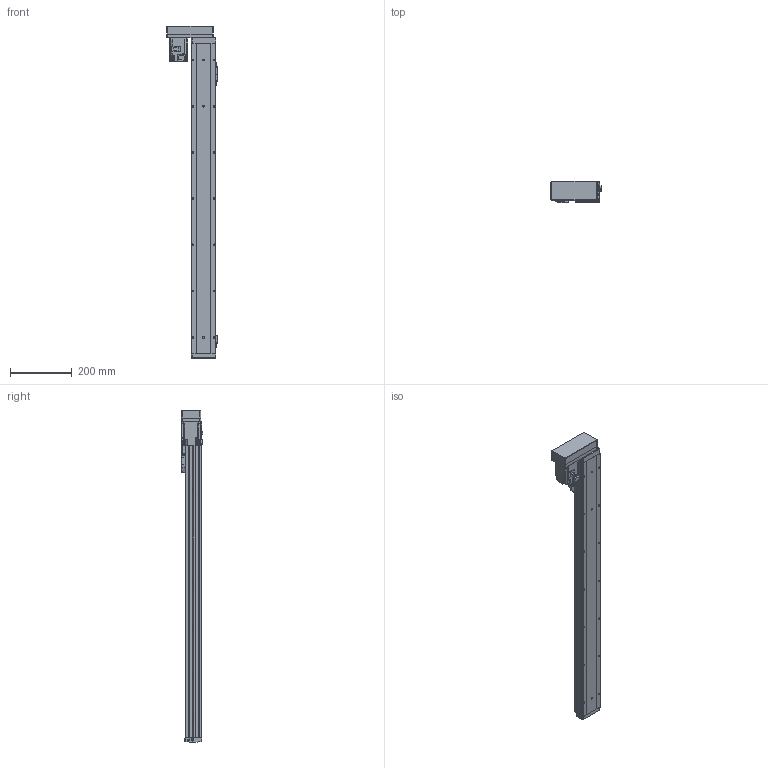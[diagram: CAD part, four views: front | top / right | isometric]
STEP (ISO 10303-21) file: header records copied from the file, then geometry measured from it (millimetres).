
FILE_DESCRIPTION (( 'STEP AP214' ), '1' );
FILE_NAME ('GSH8-850-BR-M20-1.step', '2025-01-07T06:11:27', ( '' ), ( '' ), 'SwSTEP 2.0', 'SolidWorks 2012', '' );
FILE_SCHEMA (( 'AUTOMOTIVE_DESIGN' ));
Length unit declared in the file: millimetre
Products named in the file (5): GSH8-850-BR-M20-1; GSH8-BL-008; GSH8-BL-011-850-M20; HG-KR23_200W_Motor; GSH8-GY-004
Assembly tree (4 placements, depth 2):
  GSH8-850-BR-M20-1
    GSH8-BL-011-850-M20
    GSH8-GY-004
    GSH8-BL-008
    HG-KR23_200W_Motor
Bounding box: 163 x 71.3 x 1078.2 mm (x, y, z)
Volume: 2468354.5 mm3; surface area: 635125.9 mm2
Topology: 4 solids, 8 shells, 1142 faces, 3002 edges, 1933 vertices
Faces by surface type: plane 642, cylinder 404, torus 42, cone 26, bspline 24, sphere 4
Entity records: 45238 total; most frequent: CARTESIAN_POINT 10678, DIRECTION 6098, ORIENTED_EDGE 5988, EDGE_CURVE 2994, AXIS2_PLACEMENT_3D 2057, LINE 1984, VECTOR 1984, VERTEX_POINT 1929
